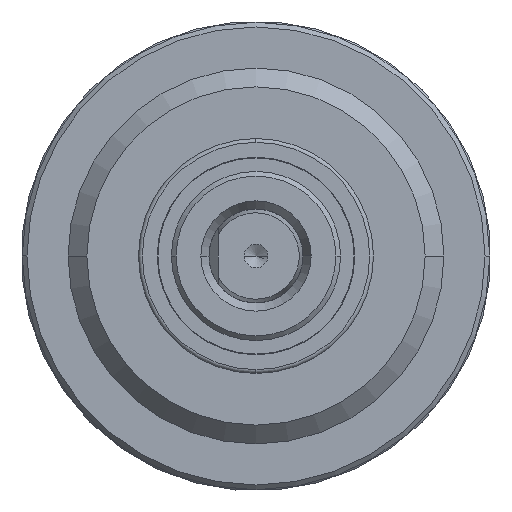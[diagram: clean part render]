
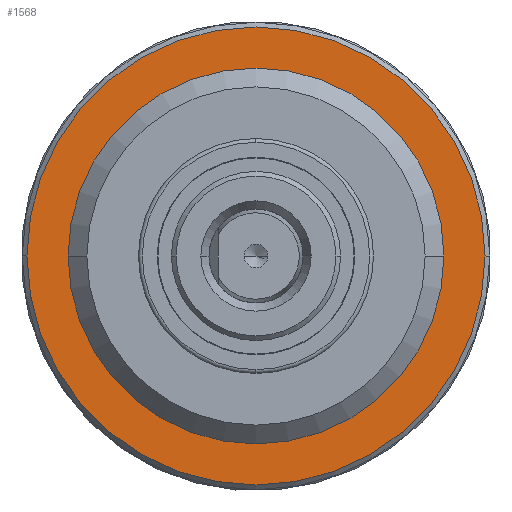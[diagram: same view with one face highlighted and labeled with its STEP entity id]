
A CAD part, left-side view. The second image highlights one B-rep face of the part: STEP entity #1568.
In plain terms, the highlighted planar face has unit normal (-1, 0, 0).
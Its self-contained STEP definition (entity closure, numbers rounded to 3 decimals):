
#194=CARTESIAN_POINT('',(0.,0.,
0.));
#195=DIRECTION('',(1.,0.,0.));
#196=DIRECTION('',(0.,-1.,0.));
#197=AXIS2_PLACEMENT_3D('',#194,#195,#196);
#202=CARTESIAN_POINT('',(0.,0.,
0.));
#203=DIRECTION('',(1.,0.,0.));
#204=DIRECTION('',(0.,0.,-1.));
#205=AXIS2_PLACEMENT_3D('',#202,#203,#204);
#210=CARTESIAN_POINT('',(0.,0.,0.));
#211=DIRECTION('',(1.,0.,0.));
#212=DIRECTION('',(0.,1.,0.));
#213=AXIS2_PLACEMENT_3D('',#210,#211,#212);
#218=CARTESIAN_POINT('',(0.,0.,0.));
#219=DIRECTION('',(1.,0.,0.));
#220=DIRECTION('',(0.,0.,1.));
#221=AXIS2_PLACEMENT_3D('',#218,#219,#220);
#226=CARTESIAN_POINT('',(0.,0.,0.));
#227=DIRECTION('',(-1.,0.,0.));
#228=DIRECTION('',(0.,-1.,0.));
#229=AXIS2_PLACEMENT_3D('',#226,#227,#228);
#234=CARTESIAN_POINT('',(0.,0.,0.));
#235=DIRECTION('',(-1.,0.,0.));
#236=DIRECTION('',(0.,1.,0.));
#237=AXIS2_PLACEMENT_3D('',#234,#235,#236);
#1228=CARTESIAN_POINT('',(0.,3.5,0.));
#1229=VERTEX_POINT('',#1228);
#1230=CARTESIAN_POINT('',(0.,-3.5,0.));
#1231=VERTEX_POINT('',#1230);
#1232=CARTESIAN_POINT('',(0.,0.,
-4.875));
#1233=CARTESIAN_POINT('',(0.,4.875,
0.));
#1234=VERTEX_POINT('',#1232);
#1235=VERTEX_POINT('',#1233);
#1236=CARTESIAN_POINT('',(0.,-4.875,
0.));
#1237=VERTEX_POINT('',#1236);
#1238=CARTESIAN_POINT('',(0.,0.,4.875));
#1239=VERTEX_POINT('',#1238);
#1549=CARTESIAN_POINT('',(0.,0.,0.));
#1550=DIRECTION('',(1.,0.,0.));
#1551=DIRECTION('',(0.,-1.,0.));
#1552=AXIS2_PLACEMENT_3D('',#1549,#1550,#1551);
#1553=PLANE('',#1552);
#1555=ORIENTED_EDGE('',*,*,#1554,.T.);
#1557=ORIENTED_EDGE('',*,*,#1556,.T.);
#1559=ORIENTED_EDGE('',*,*,#1558,.T.);
#1561=ORIENTED_EDGE('',*,*,#1560,.T.);
#1562=EDGE_LOOP('',(#1555,#1557,#1559,#1561));
#1563=FACE_OUTER_BOUND('',#1562,.F.);
#1564=ORIENTED_EDGE('',*,*,#1530,.T.);
#1565=ORIENTED_EDGE('',*,*,#1507,.T.);
#1566=EDGE_LOOP('',(#1564,#1565));
#1567=FACE_BOUND('',#1566,.F.);
#1568=ADVANCED_FACE('',(#1563,#1567),#1553,.F.);
#198=CIRCLE('',#197,4.875);
#206=CIRCLE('',#205,4.875);
#214=CIRCLE('',#213,4.875);
#222=CIRCLE('',#221,4.875);
#230=CIRCLE('',#229,3.5);
#238=CIRCLE('',#237,3.5);
#1507=EDGE_CURVE('',#1229,#1231,#238,.T.);
#1530=EDGE_CURVE('',#1231,#1229,#230,.T.);
#1554=EDGE_CURVE('',#1237,#1234,#198,.T.);
#1556=EDGE_CURVE('',#1234,#1235,#206,.T.);
#1558=EDGE_CURVE('',#1235,#1239,#214,.T.);
#1560=EDGE_CURVE('',#1239,#1237,#222,.T.);
